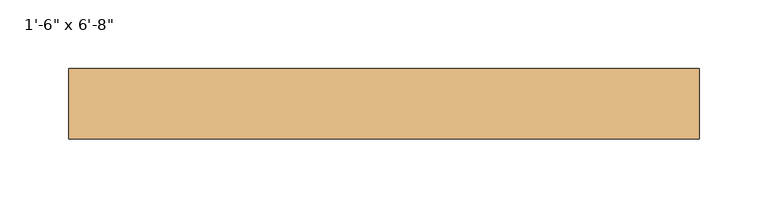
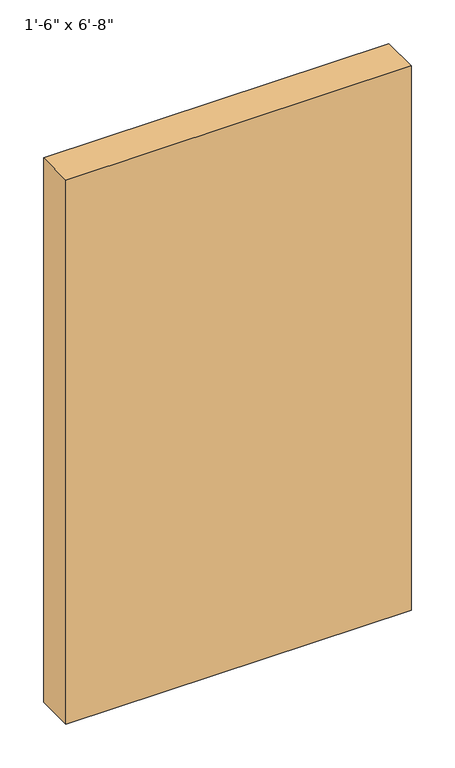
"""IFC4 building model written with IfcOpenShell, lengths in millimetres: door geometry."""

from ifc_helpers import new_model, si_unit, origin, origin_with_axes, place, context, project, spatial, polyline, outline, extrude, source, transform, mapped, element, save


def door_caf60923(model_context):
    return source(origin(), model_context, "Body", "SweptSolid", [
        extrude(outline(polyline([(228.6, -6.1515625), (228.6, -57.15), (-228.6, -57.15), (-228.6, -6.1515625), (228.6, -6.1515625)])), origin_with_axes(), (0.0, 0.0, 1.0), 762.0),
    ])


if __name__ == "__main__":
    model = new_model("IFC4")
    model_context = context("Model", 3, world=origin())
    ifc_project = project(units=[si_unit("LENGTHUNIT", "METRE", prefix="MILLI")], contexts=[model_context])
    site = spatial("IfcSite", under=ifc_project)
    building = spatial("IfcBuilding", under=site)
    placement = place(None, origin())
    door_shape = door_caf60923(model_context)
    element("IfcDoor", 1, ObjectType="Planitar - Single Door_Flush Panel : 1'-6\" x 6'-8\"", at=placement, inside=building, context=model_context, shape_type="MappedRepresentation", body=[
        mapped(door_shape, transform((0.0, 0.0, 0.0), x_axis=(1.0, 0.0, 0.0), y_axis=(0.0, 1.0, 0.0), z_axis=(0.0, 0.0, 1.0))),
    ])
    save(model, "model.ifc")
